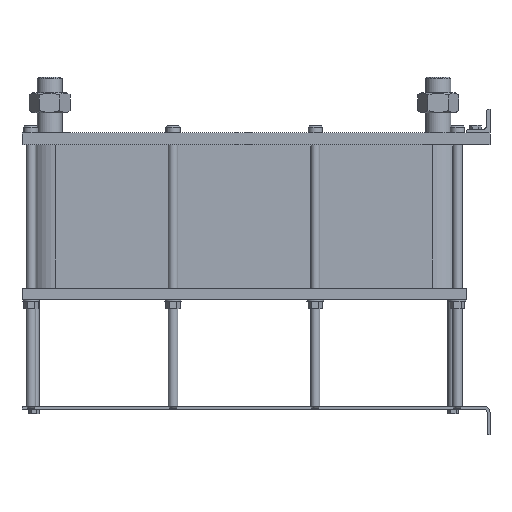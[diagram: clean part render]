
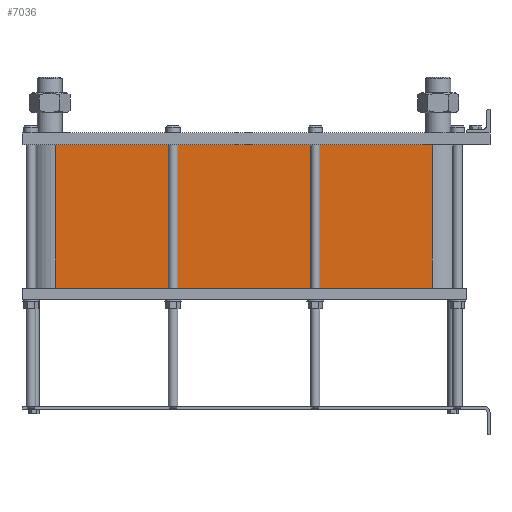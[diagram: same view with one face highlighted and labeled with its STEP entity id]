
A CAD part, left-side view. The second image highlights one B-rep face of the part: STEP entity #7036.
In plain terms, the highlighted planar face has unit normal (-1, 0, 0).
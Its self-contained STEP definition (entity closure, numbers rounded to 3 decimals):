
#999=LINE('',#15640,#1553);
#1031=LINE('',#15723,#1585);
#1032=LINE('',#15726,#1586);
#1033=LINE('',#15727,#1587);
#1553=VECTOR('',#9658,10.);
#1585=VECTOR('',#9736,10.);
#1586=VECTOR('',#9741,10.);
#1587=VECTOR('',#9742,10.);
#2117=FACE_OUTER_BOUND('',#2671,.T.);
#2671=EDGE_LOOP('',(#6246,#6247,#6248,#6249));
#3527=VERTEX_POINT('',#15634);
#3529=VERTEX_POINT('',#15638);
#3556=VERTEX_POINT('',#15720);
#3557=VERTEX_POINT('',#15722);
#4425=EDGE_CURVE('',#3529,#3527,#999,.T.);
#4466=EDGE_CURVE('',#3557,#3556,#1031,.T.);
#4468=EDGE_CURVE('',#3527,#3556,#1032,.T.);
#4469=EDGE_CURVE('',#3557,#3529,#1033,.T.);
#6246=ORIENTED_EDGE('',*,*,#4468,.F.);
#6247=ORIENTED_EDGE('',*,*,#4425,.F.);
#6248=ORIENTED_EDGE('',*,*,#4469,.F.);
#6249=ORIENTED_EDGE('',*,*,#4466,.T.);
#6608=PLANE('',#7812);
#7036=ADVANCED_FACE('',(#2117),#6608,.T.);
#7812=AXIS2_PLACEMENT_3D('',#15725,#9739,#9740);
#9658=DIRECTION('',(0.,0.,-1.));
#9736=DIRECTION('',(0.,0.,-1.));
#9739=DIRECTION('center_axis',(-1.,0.,0.));
#9740=DIRECTION('ref_axis',(0.,1.,0.));
#9741=DIRECTION('',(0.,1.,0.));
#9742=DIRECTION('',(0.,-1.,0.));
#15634=CARTESIAN_POINT('',(-72.,97.5,-241.8));
#15638=CARTESIAN_POINT('',(-72.,97.5,0.));
#15640=CARTESIAN_POINT('',(-72.,97.5,0.));
#15720=CARTESIAN_POINT('',(-72.,733.5,-241.8));
#15722=CARTESIAN_POINT('',(-72.,733.5,0.));
#15723=CARTESIAN_POINT('',(-72.,733.5,0.));
#15725=CARTESIAN_POINT('Origin',(-72.,97.5,0.));
#15726=CARTESIAN_POINT('',(-72.,256.5,-241.8));
#15727=CARTESIAN_POINT('',(-72.,733.5,0.));
